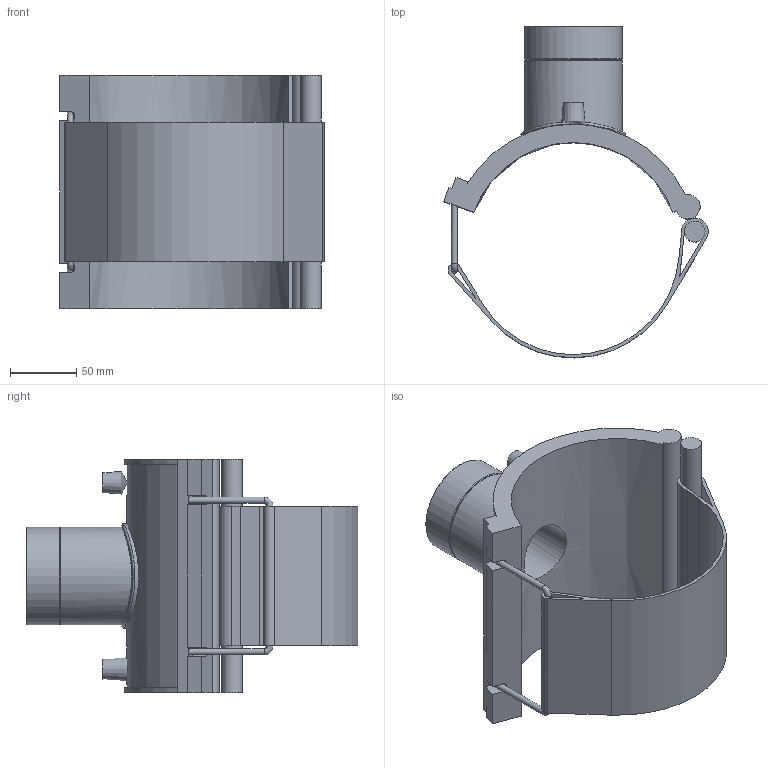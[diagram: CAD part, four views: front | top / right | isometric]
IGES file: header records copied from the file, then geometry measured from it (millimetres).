
Global section: file name: 493804160020.ipt; native system: Autodesk Inventor 2015; preprocessor: unknown; author: KIM; date: 20171106.094110; units: millimetre
Bounding box: 199.54 x 250.4 x 176 mm (x, y, z)
Volume: 807780.1 mm3; surface area: 214053.4 mm2
Topology: 2 solids, 2 shells, 80 faces, 200 edges, 128 vertices
Faces by surface type: plane 44, cylinder 19, revolution 11, cone 5, bspline 1
Full cylindrical faces by diameter (mm): 4 x2, 4.8 x2, 15.508 x1, 72.653 x1, 73.653 x2, 79.318 x1
